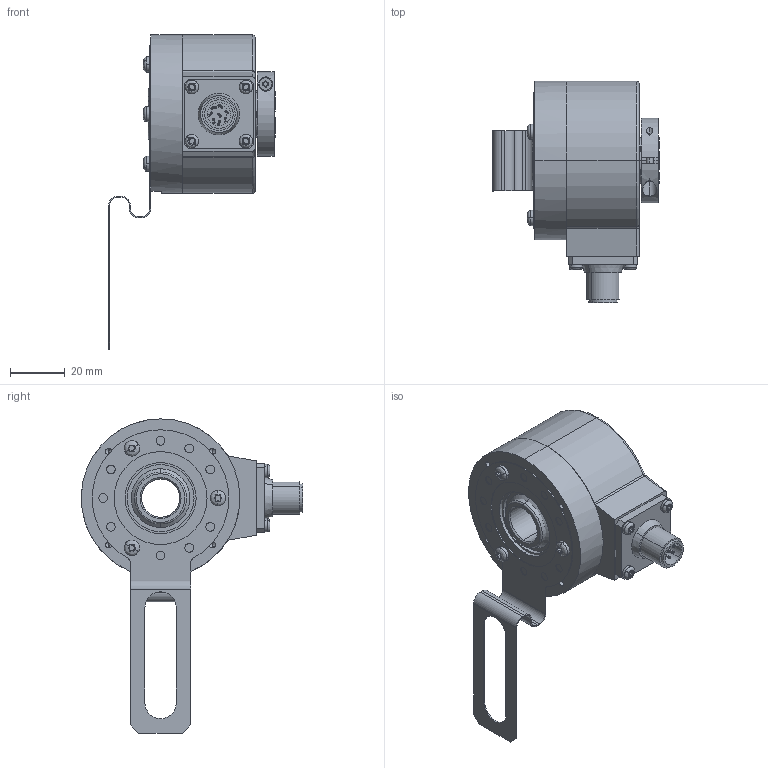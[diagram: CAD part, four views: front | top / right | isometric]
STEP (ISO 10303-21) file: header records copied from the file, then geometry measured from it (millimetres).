
FILE_DESCRIPTION (( 'STEP AP203' ), '1' );
FILE_NAME ('K58I.OXX.XXXXX.XC14514.6XRC2.step', '2025-12-08T11:50:57', ( '' ), ( '' ), 'SwSTEP 2.0', 'SolidWorks 2021', '' );
FILE_SCHEMA (( 'CONFIG_CONTROL_DESIGN' ));
Length unit declared in the file: millimetre
Products named in the file (1): K58I.OXX.XXXXX.XC14514.6XRC2
Bounding box: 60.99 x 81 x 115 mm (x, y, z)
Volume: 107441.8 mm3; surface area: 36757.5 mm2
Topology: 7 solids, 7 shells, 626 faces, 1631 edges, 1043 vertices
Faces by surface type: cylinder 298, plane 186, bspline 76, cone 43, sphere 16, torus 7
Entity records: 24495 total; most frequent: CARTESIAN_POINT 9433, ORIENTED_EDGE 3170, DIRECTION 3054, EDGE_CURVE 1585, AXIS2_PLACEMENT_3D 1160, VERTEX_POINT 1027, VECTOR 734, LINE 734
